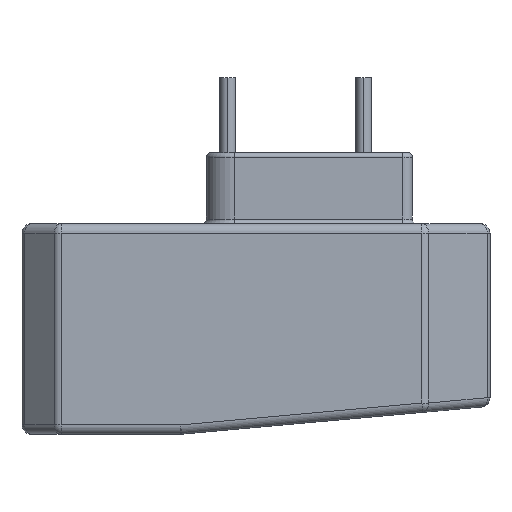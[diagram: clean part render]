
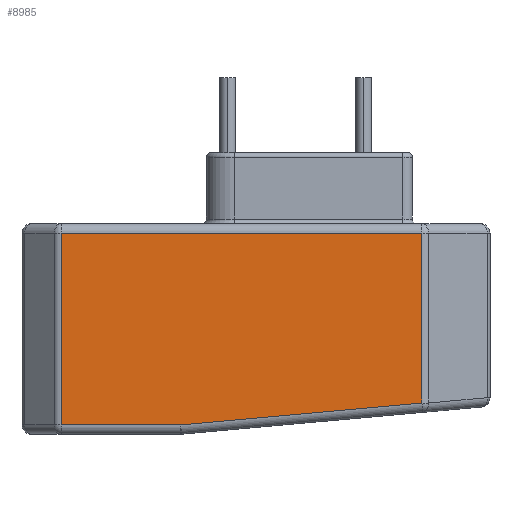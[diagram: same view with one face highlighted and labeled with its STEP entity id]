
A CAD part, left-side view. The second image highlights one B-rep face of the part: STEP entity #8985.
In plain terms, the highlighted planar face has unit normal (-1, 0, 0).
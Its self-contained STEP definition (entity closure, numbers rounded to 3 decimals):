
#227 = EDGE_LOOP ( 'NONE', ( #4516, #7415, #2086, #8109, #8317 ) ) ;
#378 = CARTESIAN_POINT ( 'NONE',  ( -33., 5.662, -21.5 ) ) ;
#630 = EDGE_CURVE ( 'NONE', #3483, #5354, #10029, .T. ) ;
#802 = VERTEX_POINT ( 'NONE', #3767 ) ;
#1082 = FACE_OUTER_BOUND ( 'NONE', #227, .T. ) ;
#1290 = DIRECTION ( 'NONE',  ( 0., 1., 0. ) ) ;
#2077 = VECTOR ( 'NONE', #7322, 1000. ) ;
#2086 = ORIENTED_EDGE ( 'NONE', *, *, #5581, .T. ) ;
#2358 = LINE ( 'NONE', #2899, #2077 ) ;
#2899 = CARTESIAN_POINT ( 'NONE',  ( -33., 6.076, -21.5 ) ) ;
#2967 = CARTESIAN_POINT ( 'NONE',  ( -33., 6.076, 0. ) ) ;
#3194 = CARTESIAN_POINT ( 'NONE',  ( -33., 5.662, -20.5 ) ) ;
#3297 = CARTESIAN_POINT ( 'NONE',  ( -33., 44.624, 0. ) ) ;
#3483 = VERTEX_POINT ( 'NONE', #3297 ) ;
#3544 = VERTEX_POINT ( 'NONE', #2967 ) ;
#3708 = VECTOR ( 'NONE', #5694, 1000. ) ;
#3767 = CARTESIAN_POINT ( 'NONE',  ( -33., 6.076, -18.157 ) ) ;
#4516 = ORIENTED_EDGE ( 'NONE', *, *, #4876, .T. ) ;
#4563 = VECTOR ( 'NONE', #7063, 1000. ) ;
#4779 = CARTESIAN_POINT ( 'NONE',  ( -33., 45.038, 0. ) ) ;
#4818 = VECTOR ( 'NONE', #10796, 1000. ) ;
#4876 = EDGE_CURVE ( 'NONE', #5354, #4989, #6937, .T. ) ;
#4989 = VERTEX_POINT ( 'NONE', #6585 ) ;
#5309 = CARTESIAN_POINT ( 'NONE',  ( -33., 44.624, -21.5 ) ) ;
#5354 = VERTEX_POINT ( 'NONE', #7792 ) ;
#5581 = EDGE_CURVE ( 'NONE', #802, #3544, #2358, .T. ) ;
#5694 = DIRECTION ( 'NONE',  ( 0., -0.996, 0.091 ) ) ;
#5810 = DIRECTION ( 'NONE',  ( 0., 0., -1. ) ) ;
#6548 = DIRECTION ( 'NONE',  ( 1., 0., 0. ) ) ;
#6585 = CARTESIAN_POINT ( 'NONE',  ( -33., 31.845, -20.5 ) ) ;
#6630 = EDGE_CURVE ( 'NONE', #4989, #802, #8107, .T. ) ;
#6937 = LINE ( 'NONE', #3194, #4563 ) ;
#7063 = DIRECTION ( 'NONE',  ( 0., -1., 0. ) ) ;
#7322 = DIRECTION ( 'NONE',  ( 0., 0., 1. ) ) ;
#7415 = ORIENTED_EDGE ( 'NONE', *, *, #6630, .T. ) ;
#7792 = CARTESIAN_POINT ( 'NONE',  ( -33., 44.624, -20.5 ) ) ;
#8107 = LINE ( 'NONE', #10815, #3708 ) ;
#8109 = ORIENTED_EDGE ( 'NONE', *, *, #9546, .T. ) ;
#8317 = ORIENTED_EDGE ( 'NONE', *, *, #630, .T. ) ;
#8985 = ADVANCED_FACE ( 'NONE', ( #1082 ), #9112, .F. ) ;
#9112 = PLANE ( 'NONE',  #9415 ) ;
#9415 = AXIS2_PLACEMENT_3D ( 'NONE', #378, #6548, #1290 ) ;
#9465 = LINE ( 'NONE', #4779, #4818 ) ;
#9546 = EDGE_CURVE ( 'NONE', #3544, #3483, #9465, .T. ) ;
#9770 = VECTOR ( 'NONE', #5810, 1000. ) ;
#10029 = LINE ( 'NONE', #5309, #9770 ) ;
#10796 = DIRECTION ( 'NONE',  ( 0., 1., 0. ) ) ;
#10815 = CARTESIAN_POINT ( 'NONE',  ( -33., 5.966, -18.147 ) ) ;
